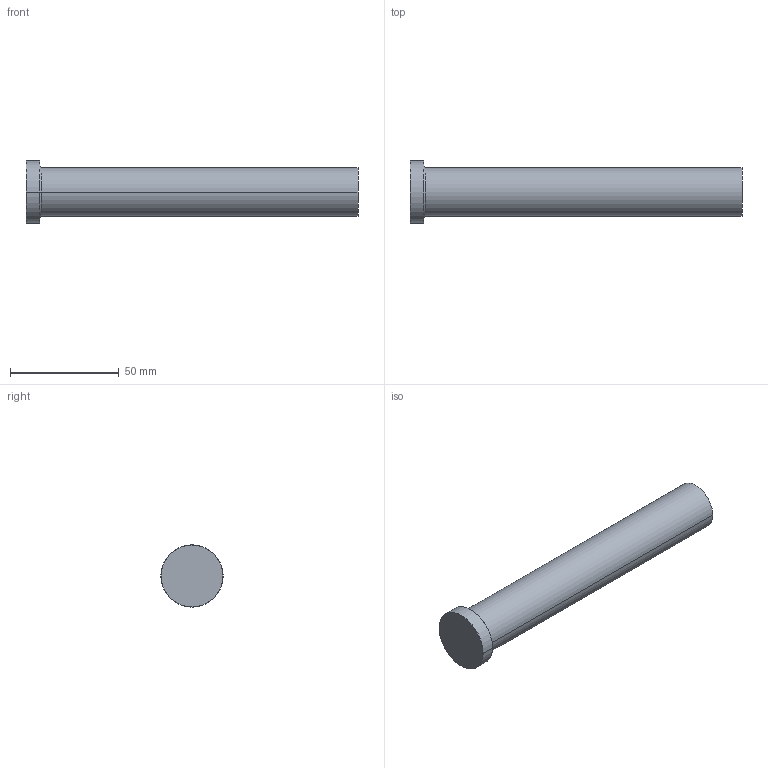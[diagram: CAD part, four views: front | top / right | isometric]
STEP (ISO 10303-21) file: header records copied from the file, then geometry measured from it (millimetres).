
FILE_DESCRIPTION (( 'STEP AP214' ), '1' );
FILE_NAME ('P45-6.STEP', '2020-03-12T12:21:29', ( '' ), ( '' ), 'SwSTEP 2.0', 'SolidWorks 2018', '' );
FILE_SCHEMA (( 'AUTOMOTIVE_DESIGN' ));
Length unit declared in the file: inch
Products named in the file (1): P45-6
Bounding box: 152.4 x 28.57 x 28.57 mm (x, y, z)
Volume: 60675.2 mm3; surface area: 12011 mm2
Topology: 1 solids, 1 shells, 13 faces, 24 edges, 14 vertices
Faces by surface type: cone 4, cylinder 4, plane 3, torus 2
Entity records: 366 total; most frequent: DIRECTION 68, CARTESIAN_POINT 52, ORIENTED_EDGE 48, AXIS2_PLACEMENT_3D 30, EDGE_CURVE 24, CIRCLE 16, VERTEX_POINT 14, EDGE_LOOP 14
